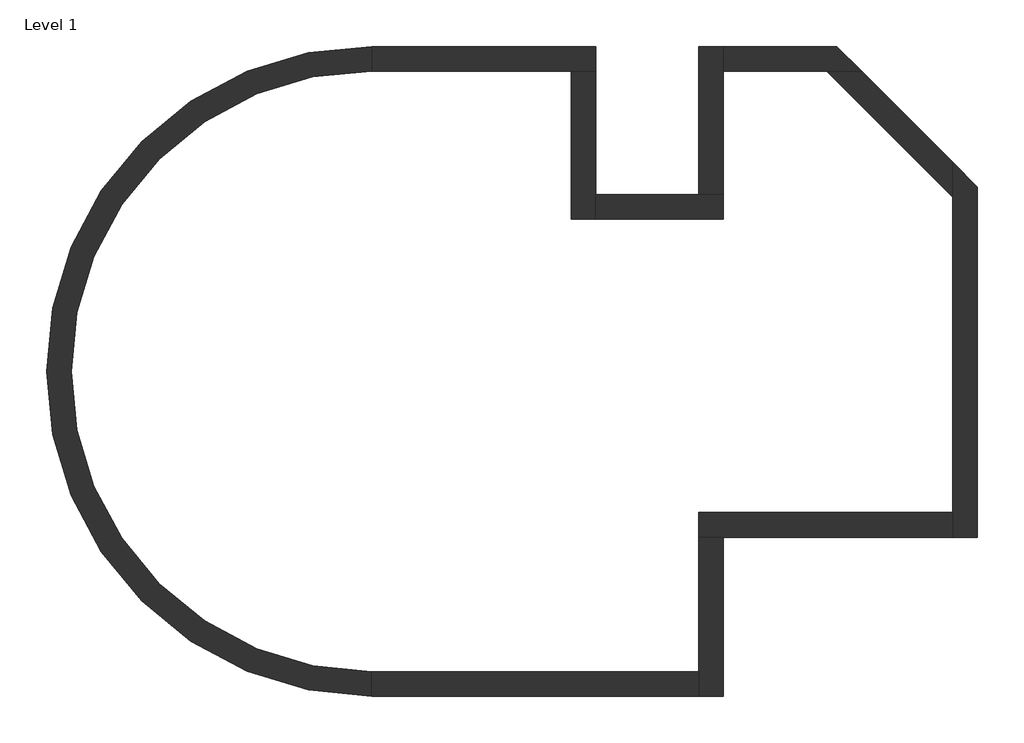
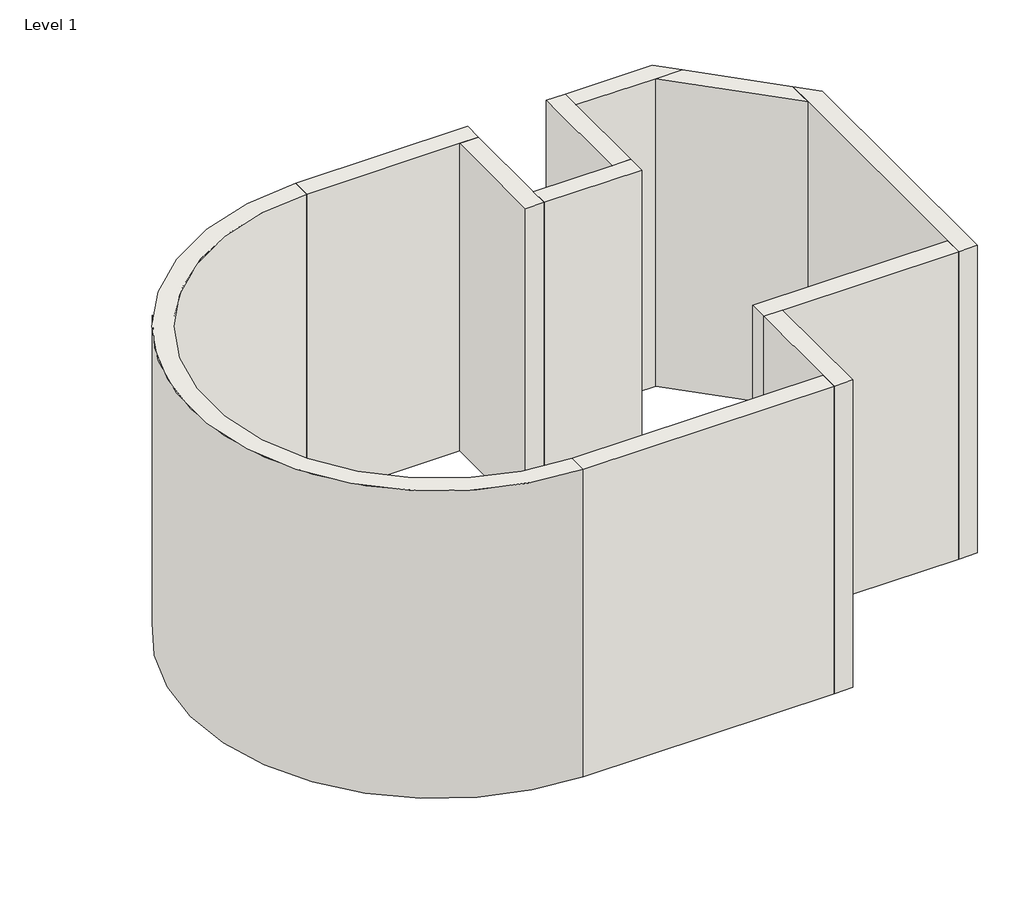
# One storey: 11 walls.
"""IFC4 building model written with IfcOpenShell, lengths in millimetres."""

from ifc_helpers import new_model, si_unit, point, frame_2d, origin, origin_with_axes, place, context, project, spatial, polyline, circle_curve, trimmed, segment, composite_curve, outline, extrude, faceted_brep, element, save

model = new_model("IFC4")

# Units and contexts
model_context = context("Model", 3, world=origin())
ifc_project = project(units=[si_unit("LENGTHUNIT", "METRE", prefix="MILLI")], contexts=[model_context])

# Site, building, storey
site = spatial("IfcSite", under=ifc_project)
building = spatial("IfcBuilding", under=site)
storey = spatial("IfcBuildingStorey", under=building, Name="Level 1", Elevation=0.0)

# Walls
placement = place(None, origin())
element("IfcWall", 1, ObjectType="Exterior - Brick on Mtl. Stud", at=placement, inside=storey, context=model_context, shape_type="Brep", body=[
    faceted_brep([(-4352.987982, 5164.0459322, 0.0), (-1481.200482, 5164.0459322, 0.0), (-1128.775482, 5164.0459322, 0.0), (-1128.775482, 5164.0459322, 6096.0), (-1481.200482, 5164.0459322, 6096.0), (-4352.987982, 5164.0459322, 6096.0), (-4352.987982, 5516.4709322, 0.0), (-4352.987982, 5516.4709322, 6096.0), (-1128.775482, 5516.4709322, 6096.0), (-1128.775482, 5516.4709322, 0.0)], [[[0, 1, 2, 3, 4, 5]], [[6, 7, 8, 9]], [[2, 1, 0, 6, 9]], [[5, 4, 3, 8, 7]], [[0, 5, 7, 6]], [[3, 2, 9, 8]]]),
])
element("IfcWall", 2, ObjectType="Exterior - Brick on Mtl. Stud", at=placement, inside=storey, context=model_context, shape_type="Brep", body=[
    faceted_brep([(-1481.200482, 5164.0459322, 0.0), (-1481.200482, 3030.4459322, 0.0), (-1481.200482, 3030.4459322, 6096.0), (-1481.200482, 5164.0459322, 6096.0), (-1128.775482, 5164.0459322, 0.0), (-1128.775482, 5164.0459322, 6096.0), (-1128.775482, 3382.8709322, 6096.0), (-1128.775482, 3030.4459322, 6096.0), (-1128.775482, 3030.4459322, 0.0), (-1128.775482, 3382.8709322, 0.0)], [[[0, 1, 2, 3]], [[4, 5, 6, 7, 8, 9]], [[1, 0, 4, 9, 8]], [[3, 2, 7, 6, 5]], [[0, 3, 5, 4]], [[2, 1, 8, 7]]]),
])
element("IfcWall", 3, ObjectType="Exterior - Brick on Mtl. Stud", at=placement, inside=storey, context=model_context, shape_type="Brep", body=[
    faceted_brep([(-1128.775482, 3030.4459322, 0.0), (700.024518, 3030.4459322, 0.0), (700.024518, 3030.4459322, 6096.0), (-1128.775482, 3030.4459322, 6096.0), (-1128.775482, 3382.8709322, 0.0), (-1128.775482, 3382.8709322, 6096.0), (347.599518, 3382.8709322, 6096.0), (700.024518, 3382.8709322, 6096.0), (700.024518, 3382.8709322, 0.0), (347.599518, 3382.8709322, 0.0)], [[[0, 1, 2, 3]], [[4, 5, 6, 7, 8, 9]], [[1, 0, 4, 9, 8]], [[3, 2, 7, 6, 5]], [[0, 3, 5, 4]], [[2, 1, 8, 7]]]),
])
element("IfcWall", 4, ObjectType="Exterior - Brick on Mtl. Stud", at=placement, inside=storey, context=model_context, shape_type="Brep", body=[
    faceted_brep([(700.024518, 3382.8709322, 0.0), (700.024518, 5164.0459322, 0.0), (700.024518, 5516.4709322, 0.0), (700.024518, 5516.4709322, 6096.0), (700.024518, 5164.0459322, 6096.0), (700.024518, 3382.8709322, 6096.0), (347.599518, 3382.8709322, 0.0), (347.599518, 3382.8709322, 6096.0), (347.599518, 5516.4709322, 6096.0), (347.599518, 5516.4709322, 0.0)], [[[0, 1, 2, 3, 4, 5]], [[6, 7, 8, 9]], [[2, 1, 0, 6, 9]], [[5, 4, 3, 8, 7]], [[0, 5, 7, 6]], [[3, 2, 9, 8]]]),
])
element("IfcWall", 5, ObjectType="Exterior - Brick on Mtl. Stud", at=placement, inside=storey, context=model_context, shape_type="Brep", body=[
    faceted_brep([(700.024518, 5164.0459322, 0.0), (2192.3099106, 5164.0459322, 0.0), (2690.7141253, 5164.0459322, 0.0), (2690.7141253, 5164.0459322, 6096.0), (2192.3099106, 5164.0459322, 6096.0), (700.024518, 5164.0459322, 6096.0), (700.024518, 5516.4709322, 0.0), (700.024518, 5516.4709322, 6096.0), (2338.2891253, 5516.4709322, 6096.0), (2338.2891253, 5516.4709322, 0.0)], [[[0, 1, 2, 3, 4, 5]], [[6, 7, 8, 9]], [[2, 1, 0, 6, 9]], [[5, 4, 3, 8, 7]], [[0, 5, 7, 6]], [[3, 2, 9, 8]]]),
])
element("IfcWall", 6, ObjectType="Exterior - Brick on Mtl. Stud", at=placement, inside=storey, context=model_context, shape_type="Brep", body=[
    faceted_brep([(4005.199518, 3849.5605396, 0.0), (4005.199518, 3351.1563248, 0.0), (4005.199518, -1189.1290678, 0.0), (4005.199518, -1541.5540678, 0.0), (4005.199518, -1541.5540678, 6096.0), (4005.199518, -1189.1290678, 6096.0), (4005.199518, 3351.1563248, 6096.0), (4005.199518, 3849.5605396, 6096.0), (4357.624518, 3497.1355396, 0.0), (4357.624518, 3497.1355396, 6096.0), (4357.624518, -1541.5540678, 6096.0), (4357.624518, -1541.5540678, 0.0)], [[[0, 1, 2, 3, 4, 5, 6, 7]], [[8, 9, 10, 11]], [[3, 2, 1, 0, 8, 11]], [[7, 6, 5, 4, 10, 9]], [[4, 3, 11, 10]], [[0, 7, 9, 8]]]),
])
element("IfcWall", 7, ObjectType="Exterior - Brick on Mtl. Stud", at=placement, inside=storey, context=model_context, shape_type="Brep", body=[
    faceted_brep([(4005.199518, -1189.1290678, 0.0), (347.599518, -1189.1290678, 0.0), (347.599518, -1189.1290678, 6096.0), (4005.199518, -1189.1290678, 6096.0), (4005.199518, -1541.5540678, 0.0), (4005.199518, -1541.5540678, 6096.0), (700.024518, -1541.5540678, 6096.0), (347.599518, -1541.5540678, 6096.0), (347.599518, -1541.5540678, 0.0), (700.024518, -1541.5540678, 0.0)], [[[0, 1, 2, 3]], [[4, 5, 6, 7, 8, 9]], [[1, 0, 4, 9, 8]], [[3, 2, 7, 6, 5]], [[0, 3, 5, 4]], [[2, 1, 8, 7]]]),
])
element("IfcWall", 8, ObjectType="Exterior - Brick on Mtl. Stud", at=placement, inside=storey, context=model_context, shape_type="Brep", body=[
    faceted_brep([(347.599518, -1541.5540678, 0.0), (347.599518, -3475.1290678, 0.0), (347.599518, -3827.5540678, 0.0), (347.599518, -3827.5540678, 6096.0), (347.599518, -3475.1290678, 6096.0), (347.599518, -1541.5540678, 6096.0), (700.024518, -1541.5540678, 0.0), (700.024518, -1541.5540678, 6096.0), (700.024518, -3827.5540678, 6096.0), (700.024518, -3827.5540678, 0.0)], [[[0, 1, 2, 3, 4, 5]], [[6, 7, 8, 9]], [[2, 1, 0, 6, 9]], [[5, 4, 3, 8, 7]], [[0, 5, 7, 6]], [[3, 2, 9, 8]]]),
])
element("IfcWall", 9, ObjectType="Exterior - Brick on Mtl. Stud", at=placement, inside=storey, context=model_context, shape_type="SweptSolid", body=[
    extrude(outline(polyline([(-4352.987982, -3475.1290678), (347.599518, -3475.1290678), (347.599518, -3827.5540678), (-4352.987982, -3827.5540678), (-4352.987982, -3475.1290678)])), origin_with_axes(), (0.0, 0.0, 1.0), 6096.0),
])
element("IfcWall", 10, ObjectType="Exterior - Brick on Mtl. Stud", at=placement, inside=storey, context=model_context, shape_type="SweptSolid", body=[
    extrude(outline(composite_curve([segment(polyline([(-4352.987982, 5516.4709322), (-4352.987982, 5164.0459322)]), True, "CONTINUOUS"), segment(trimmed(circle_curve(frame_2d((-4352.987982, 844.4584322)), 4319.5875), [point((-4352.987982, 5164.0459322))], [point((-4352.987982, -3475.1290678))], True, "CARTESIAN"), True, "CONTINUOUS"), segment(polyline([(-4352.987982, -3475.1290678), (-4352.987982, -3827.5540678)]), True, "CONTINUOUS"), segment(trimmed(circle_curve(frame_2d((-4352.987982, 844.4584322)), 4672.0125), [point((-4352.987982, -3827.5540678))], [point((-4352.987982, 5516.4709322))], False, "CARTESIAN"), True, "CONTINUOUS")], self_intersect=False)), origin_with_axes(), (0.0, 0.0, 1.0), 6096.0),
])
element("IfcWall", 11, ObjectType="Exterior - Brick on Mtl. Stud", at=placement, inside=storey, context=model_context, shape_type="SweptSolid", body=[
    extrude(outline(polyline([(4005.199518, 3351.1563248), (2192.3099106, 5164.0459322), (2690.7141253, 5164.0459322), (4005.199518, 3849.5605396), (4005.199518, 3351.1563248)])), origin_with_axes(), (0.0, 0.0, 1.0), 6096.0),
])

save(model, "model.ifc")
